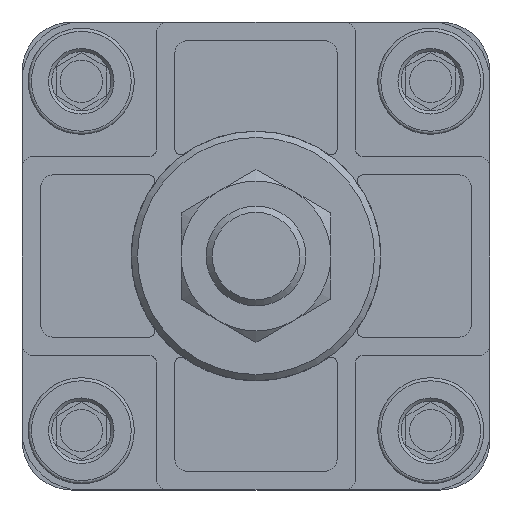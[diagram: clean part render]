
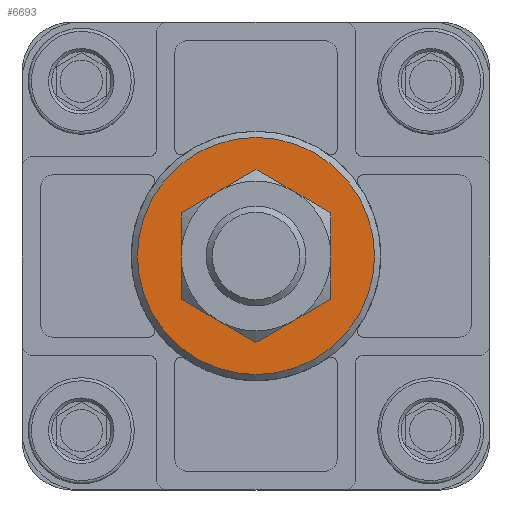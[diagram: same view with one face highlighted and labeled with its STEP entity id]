
A CAD part, front view. The second image highlights one B-rep face of the part: STEP entity #6693.
In plain terms, the highlighted planar face has unit normal (0, -1, 0).
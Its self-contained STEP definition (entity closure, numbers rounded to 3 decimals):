
#441=CIRCLE('',#7215,11.);
#442=CIRCLE('',#7216,19.);
#1431=ORIENTED_EDGE('',*,*,#2358,.T.);
#1432=ORIENTED_EDGE('',*,*,#2359,.T.);
#2358=EDGE_CURVE('',#2907,#2907,#441,.T.);
#2359=EDGE_CURVE('',#2908,#2908,#442,.F.);
#2907=VERTEX_POINT('',#9929);
#2908=VERTEX_POINT('',#9931);
#4075=EDGE_LOOP('',(#1431));
#4076=EDGE_LOOP('',(#1432));
#4485=FACE_BOUND('',#4075,.T.);
#4486=FACE_BOUND('',#4076,.T.);
#4754=PLANE('',#7214);
#6693=ADVANCED_FACE('',(#4485,#4486),#4754,.F.);
#7214=AXIS2_PLACEMENT_3D('',#9927,#8430,#8431);
#7215=AXIS2_PLACEMENT_3D('',#9928,#8432,#8433);
#7216=AXIS2_PLACEMENT_3D('',#9930,#8434,#8435);
#8430=DIRECTION('',(0.,1.,0.));
#8431=DIRECTION('',(0.,0.,1.));
#8432=DIRECTION('',(0.,1.,0.));
#8433=DIRECTION('',(0.,0.,1.));
#8434=DIRECTION('',(0.,1.,0.));
#8435=DIRECTION('',(0.,0.,1.));
#9927=CARTESIAN_POINT('',(0.,-48.5,0.));
#9928=CARTESIAN_POINT('',(0.,-48.5,0.));
#9929=CARTESIAN_POINT('',(0.,-48.5,11.));
#9930=CARTESIAN_POINT('',(0.,-48.5,0.));
#9931=CARTESIAN_POINT('',(0.,-48.5,19.));
